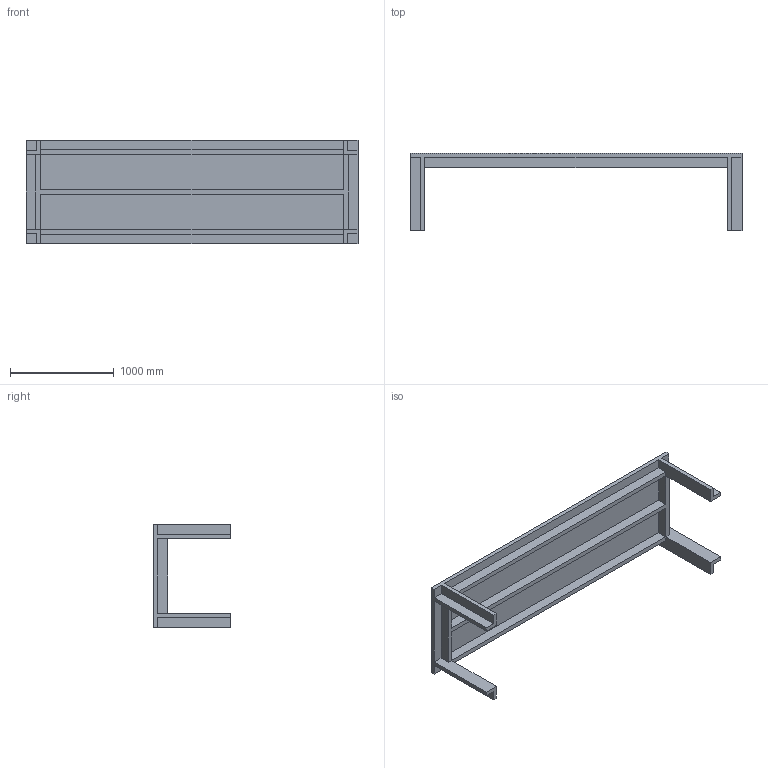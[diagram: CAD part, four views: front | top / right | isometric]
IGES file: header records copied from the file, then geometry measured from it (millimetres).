
Start section: SolidWorks IGES file using analytic representation for surfaces
Global section: file name: C:\Users\David.BDLE\Desktop\Stuff\Vocast upload 2d-3d files\Tables\De La Espada_501 Table One\3D DWG\501G Table One_3D IGS.IGS; native system: SolidWorks 2016; preprocessor: SolidWorks 2016; author: David; date: 210125.092525; units: millimetre
Bounding box: 3200 x 750 x 1000 mm (x, y, z)
Surface area: 10321400 mm2 (no closed solid volume)
Topology: 0 solids, 0 shells, 50 faces, 264 edges, 264 vertices
Faces by surface type: bspline 50
